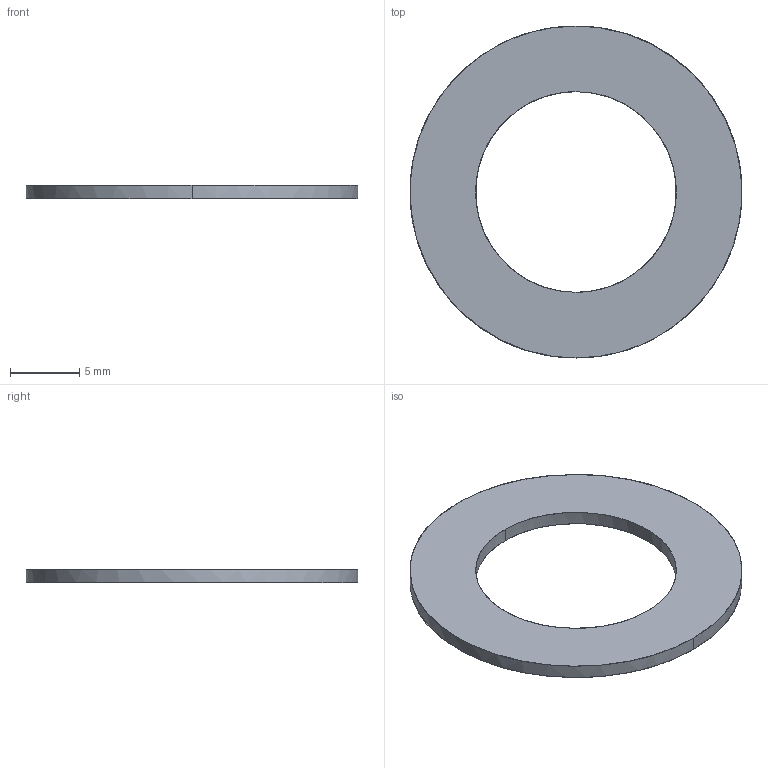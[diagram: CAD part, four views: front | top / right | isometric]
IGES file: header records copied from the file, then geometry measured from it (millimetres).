
Global section: file name: E:\UnigraphicsGraphicData\MISUMI_PRESS-PARTS\IGES\3d_sswa24-1.0_00815_r00.igs; native system: NX V5.0; preprocessor: UGS NX IGES V5.0; author: MISUMI; date: 20110105.163159; units: millimetre
Bounding box: 24 x 24 x 1 mm (x, y, z)
Surface area: 697.4 mm2 (no closed solid volume)
Topology: 0 solids, 0 shells, 6 faces, 48 edges, 48 vertices
Faces by surface type: bspline 6
